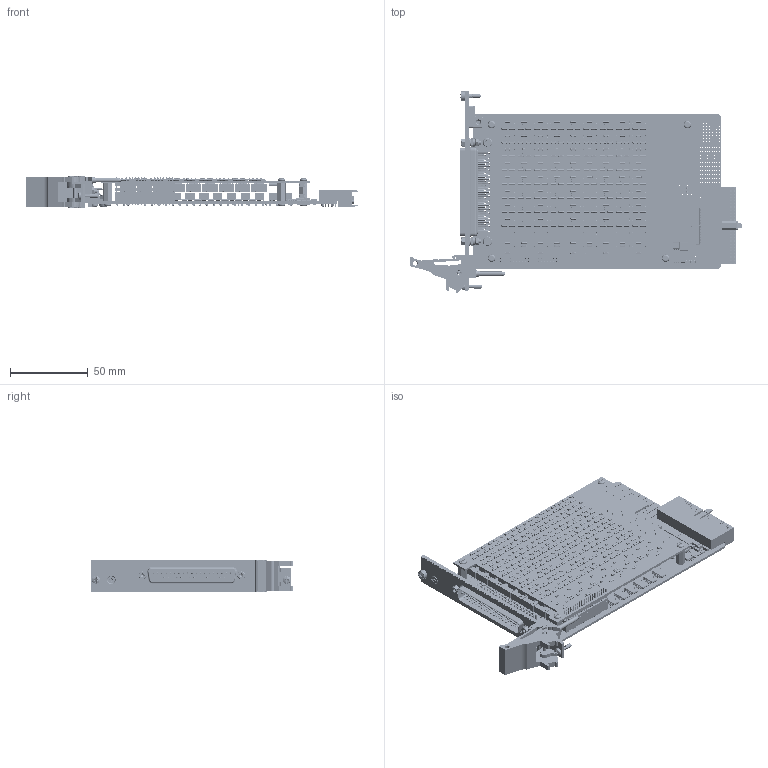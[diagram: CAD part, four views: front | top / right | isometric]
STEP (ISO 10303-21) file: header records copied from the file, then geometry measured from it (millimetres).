
FILE_DESCRIPTION (( 'STEP AP214' ), '1' );
FILE_NAME ('40-297A-034 PXI High Density Precision Resistor Module 9-Channel 2 Ohm to 102 kOhm 2 Ohm Resolution.step', '2024-01-16T15:01:19', ( '' ), ( '' ), 'SwSTEP 2.0', 'SolidWorks 2023', '' );
FILE_SCHEMA (( 'AUTOMOTIVE_DESIGN' ));
Length unit declared in the file: millimetre
Products named in the file (105): C-RS-873 RES 0204 18R 0.25W 1% 50PPM; C-RS-886 RES 0204; C-PC-1383 Programmable Resistor Motherboard; C-IC-546 24 BIT BUS SWITCH 56PIN TVSOP; C-CP-139 CAP 4.7UF 1206 16V X7R 10%; A-PC-1383-X34-# Programmable Resistor Mother; C-RS-870 RES 0204 6R8 0.25W 1% 50PPM; C-RS-884 RES 2K4 0204 0.25W 0.1% 15PPM; C-IC-426 32-Flash Memory Standard Serial NOR 32Mbit SPI WSOIC-8; C-CN-073-NUT M2-5 Screwlock nut_C-FX-028 M2,5 Nut; C-CN-1453-Short Pins 2 x 15 Way Header ST M SM; C-PC-1384 Programmable Resistor Daughtercard; C-RS-881 RES 910R 0204 0.25W 0.1% 15PPM; C-CN-1580 2 X 19 WAY HEADER ST M TH; C-RS-879 RES 470R 0204 0.25W 0.1% 15PPM; C-CN-107-PIN; C-CN-1453-Bottom Body 2 x 15 Way Header ST M SM; C-CP-175 CAP 22uF 1206 25V X5R 10%; C-RS-882 RES 1K8 0204 0.25W 0.1% 15PPM; C-FX-273 M3 X 6 SLOTTED PAN SCREW; C-RS-867 RES 0204 2R2 0.25W 1% 50PPM; C-BK-026 Bush Front Panel Mounting; C-RS-521 Res 120R (0603) 1-16W 1% 100pp; C-FX-042 Screw M2.5x6 CSK Pozi_M 2.5x06 - C-FX-042; A-PC-1384-X34 Programmable Resistor Daughter; C-RS-877 RES 240R 0204 0.25W 0.1% 15PPM; C-RS-152 Res 10K 0603 1-16W 1% 300PPM; C-RS-868 RES 0204 3R3 0.25W 1% 50PPM; C-CN-073-SPRING WASHER; C-FX-165 Handle Finger; C-RS-914 RES 100K 0204 0.25W 0.1% 15PPM; C-RS-862 0204 Surface Mount; C-RS-889 RES 47K 0204 0.25W 0.1% 15PPM; C-RS-659 RES NW 4K7 4RES 8PINS SMT1206; C-CP-034; C-RS-872 RES 15R 0204 0.25W 1% 50PPM; 40-297A-034 PXI High Density Precision Resistor Module 9-Channel 2 Ohm to 102 kOhm 2 Ohm Resolution; C-FP-399 PXI 3U 1-slot 37Way D PCB Mounting; A-FP-399-L1 1x37 Way D FP Full Assy; L-FP-399 PXI 3U 1SLT 37W D FP Label Assy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
Assembly tree (997 placements, depth 5):
  40-297A-034 PXI High Density Precision Resistor Module 9-Channel 2 Ohm to 102 kOhm 2 Ohm Resolution
    A-PC-1383-X34 Programmable Resistor Mother
      A-PC-1383-X34-# Programmable Resistor Mother
        C-PC-1383 Programmable Resistor Motherboard
        C-CN-1071
          C-CN-107-BODY
          C-CN-107-PIN  x8
        C-CN-1579 2 X 19 WAY HEADER ST F TH
        C-RS-190 Res 0R0 SIZE 0603 SMT
        C-CP-239  Power Line Filter  x4
        C-CP-175 CAP 22uF 1206 25V X5R 10%  x2
        C-CP-141 CAP 10UF 1206 35V X5R 10%  x7
        C-RL-260 Signal Relay Surface Mount_No Text  x87
        C-CN-1462 2 x 15 WAY HEADER ST F SM
        C-IC-226  16 Bit Driver IC  x6
        C-IC-489 F-RAM Semiconductor Serial-I2C FRAM Memory 512kbit 2-3.6 V 8-Pin SOIC  x2
        C-RS-862 0204 Surface Mount  x18
        C-RS-884 RES 2K4 0204 0.25W 0.1% 15PPM  x10
        C-RS-876 RES 130R 0204 0.25W 0.1% 15PPM  x10
        C-RS-875 RES 62R 0204 0.25W 0.1% 15PPM  x10
        C-RS-800 RES 3K9 0805 0.1% 5PPM  x5
        C-RS-874 RES 0204 33R 0.25W 1% 50PPM  x10
        C-RS-878 RES 430R 0204 0.25W 0.1% 15PPM  x5
        C-RS-872 RES 15R 0204 0.25W 1% 50PPM  x5
        C-RS-873 RES 0204 18R 0.25W 1% 50PPM  x5
        C-RS-877 RES 240R 0204 0.25W 0.1% 15PPM  x13
        C-RS-870 RES 0204 6R8 0.25W 1% 50PPM  x5
        C-RS-871 RES 10R 0204 0.25W 1% 50PPM  x5
        C-RS-868 RES 0204 3R3 0.25W 1% 50PPM  x5
        C-RS-869 RES 0204 4R7 0.25W 1% 50PPM  x5
        C-RS-866 RES 0204 1R8 0.25W 1% 50PPM  x5
        C-RS-867 RES 0204 2R2 0.25W 1% 50PPM  x5
        C-RS-865 RES 0204 1R 0.25W 1% 50PPM  x10
        C-RS-914 RES 100K 0204 0.25W 0.1% 15PPM  x4
        C-RS-913 RES 51K 0204 0.25W 0.1% 15PPM  x8
        C-RS-920 RES 0204 2M2 0.25W 1% 50PPM  x4
        C-RS-912 RES 13K 0204 0.25W 0.1% 15PPM  x8
        C-RS-917 RES 390K 0204 0.25W 1% 50PPM  x4
        C-RS-911 RES 6K8 0204 0.25W 0.1% 15PPM  x8
        C-RS-889 RES 47K 0204 0.25W 0.1% 15PPM  x8
        C-RS-885 RES 3K9 0204 0.25W 0.1% 15PPM  x8
        C-RS-890 RES 68K 0204 0.25W 0.1% 15PPM  x4
        C-RS-882 RES 1K8 0204 0.25W 0.1% 15PPM  x8
        C-RS-881 RES 910R 0204 0.25W 0.1% 15PPM  x8
        C-RS-887 RES 16K 0204 0.25W 0.1% 15PPM  x4
        C-RS-879 RES 470R 0204 0.25W 0.1% 15PPM  x8
        C-RS-886 RES 0204  x4
        C-RS-254 Res  0603  x6
        C-SC-056 80V 250mA (DC) SOD323 Diode  x90
        C-CP-034  x22
        C-RS-152 Res 10K 0603 1-16W 1% 300PPM  x2
        C-RS-147 Res 100R 0603 1-16W 1% 100PPM
        C-CP-099 CAP 0.1uF 16V 0402 SMT  x12
        C-IC-425 SOICN 8PIN SD
        C-IC-426 32-Flash Memory Standard Serial NOR 32Mbit SPI WSOIC-8
        C-IC-442 VSSOP 8PIN SD
        C-IC-458 LDO VOLTAGE REGULATOR 1.2V SOT
        C-IC-546 24 BIT BUS SWITCH 56PIN TVSOP  x2
        C-IC-369 FPGA 17000 Cells 65nm Technology 1.2V 256-Pin FTBGA
        C-RS-148 Res 1K 0603 1-16W 1% 100PPM  x2
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Bounding box: 213.7 x 129.63 x 20 mm (x, y, z)
Volume: 124470.2 mm3; surface area: 166858.8 mm2
Topology: 998 solids, 1025 shells, 54608 faces, 133783 edges, 83986 vertices
Faces by surface type: plane 33467, cylinder 15530, torus 2601, sphere 1452, cone 1397, bspline 161
Entity records: 657437 total; most frequent: DIRECTION 89742, CARTESIAN_POINT 88772, ORIENTED_EDGE 81500, EDGE_CURVE 40752, AXIS2_PLACEMENT_3D 32569, VERTEX_POINT 26093, VECTOR 24604, LINE 24604
